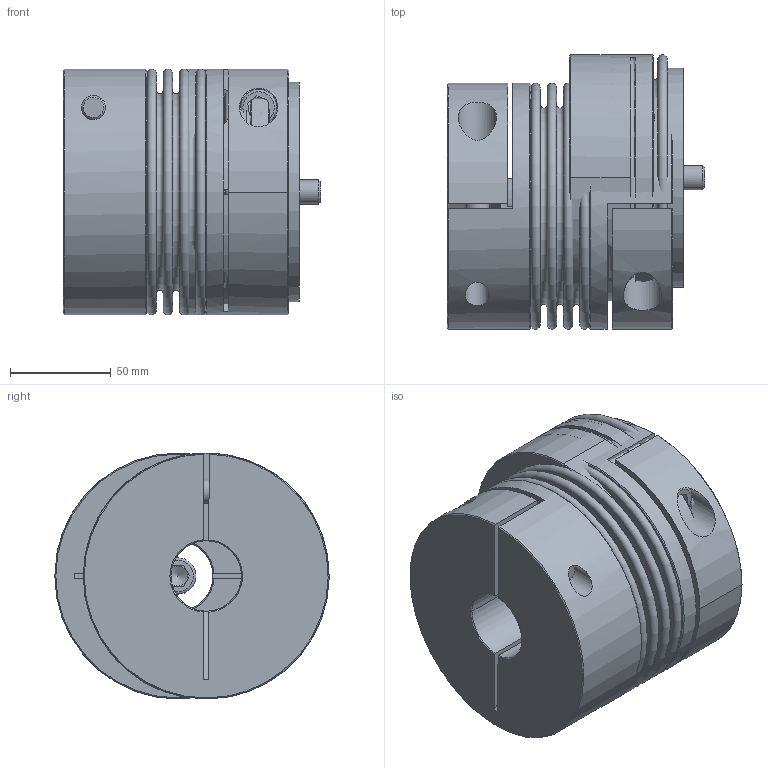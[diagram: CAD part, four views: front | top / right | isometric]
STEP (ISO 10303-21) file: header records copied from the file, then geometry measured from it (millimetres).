
FILE_DESCRIPTION( ( 'Unknown' ), '1' );
FILE_NAME( 'C:/Dokumente und Einstellungen/Sven/Desktop/cad - homepage/KB4/KB4-500-112.stp', 'Unknown', ( 'Unknown' ), ( 'Unknown' ), 'XStep 1.0', 'Unknown', ' ' );
FILE_SCHEMA( ( 'automotive_design' ) );
Length unit declared in the file: millimetre
Products named in the file (4): Assem1; Socket Head Cap Screw_DIN_DIN 912 M12 x 55 --- 55N; KN500_Standard; BK500_Standard
Bounding box: 127.81 x 136.09 x 122 mm (x, y, z)
Volume: 1314317.7 mm3; surface area: 351087.3 mm2
Topology: 8 solids, 8 shells, 201 faces, 423 edges, 273 vertices
Faces by surface type: plane 108, cylinder 41, torus 34, cone 18
Full cylindrical faces by diameter (mm): 12 x6, 12.5 x3, 18 x3, 19 x3, 35 x3, 107.7 x4, 108.9 x4, 122 x3
Entity records: 2378 total; most frequent: CARTESIAN_POINT 493, DIRECTION 345, ORIENTED_EDGE 236, AXIS2_PLACEMENT_3D 153, EDGE_LOOP 132, EDGE_CURVE 118, FACE_OUTER_BOUND 104, VERTEX_POINT 95
